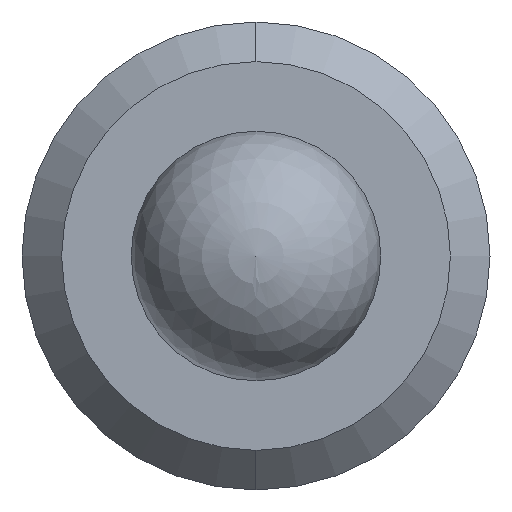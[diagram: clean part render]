
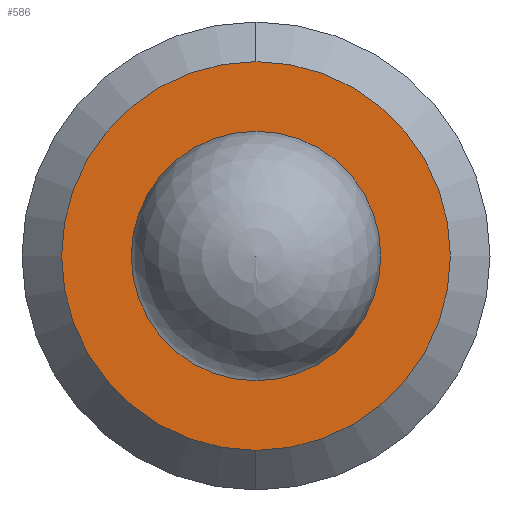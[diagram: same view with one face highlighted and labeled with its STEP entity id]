
A CAD part, left-side view. The second image highlights one B-rep face of the part: STEP entity #586.
In plain terms, the highlighted planar face has unit normal (-1, 0, 0).
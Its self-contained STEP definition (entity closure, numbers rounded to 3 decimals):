
#11 = FACE_BOUND ( 'NONE', #18, .T. ) ;
#18 = EDGE_LOOP ( 'NONE', ( #176, #44 ) ) ;
#31 = FACE_OUTER_BOUND ( 'NONE', #126, .T. ) ;
#44 = ORIENTED_EDGE ( 'NONE', *, *, #58, .F. ) ;
#58 = EDGE_CURVE ( 'NONE', #155, #599, #456, .T. ) ;
#64 = DIRECTION ( 'NONE',  ( 0., 0., -1. ) ) ;
#66 = DIRECTION ( 'NONE',  ( -1., 0., 0. ) ) ;
#70 = CARTESIAN_POINT ( 'NONE',  ( 0., 0., 0. ) ) ;
#71 = DIRECTION ( 'NONE',  ( 0., 0., 1. ) ) ;
#88 = AXIS2_PLACEMENT_3D ( 'NONE', #89, #548, #71 ) ;
#89 = CARTESIAN_POINT ( 'NONE',  ( 0., 0., 0. ) ) ;
#111 = CIRCLE ( 'NONE', #611, 1.246 ) ;
#126 = EDGE_LOOP ( 'NONE', ( #188, #187 ) ) ;
#155 = VERTEX_POINT ( 'NONE', #382 ) ;
#156 = AXIS2_PLACEMENT_3D ( 'NONE', #70, #66, #64 ) ;
#176 = ORIENTED_EDGE ( 'NONE', *, *, #320, .F. ) ;
#177 = VERTEX_POINT ( 'NONE', #274 ) ;
#187 = ORIENTED_EDGE ( 'NONE', *, *, #439, .T. ) ;
#188 = ORIENTED_EDGE ( 'NONE', *, *, #213, .T. ) ;
#213 = EDGE_CURVE ( 'NONE', #177, #484, #438, .T. ) ;
#274 = CARTESIAN_POINT ( 'NONE',  ( 0., 0., -1.246 ) ) ;
#277 = AXIS2_PLACEMENT_3D ( 'NONE', #587, #584, #517 ) ;
#320 = EDGE_CURVE ( 'NONE', #599, #155, #386, .T. ) ;
#350 = CARTESIAN_POINT ( 'NONE',  ( 0., 0., 0.8 ) ) ;
#366 = DIRECTION ( 'NONE',  ( 0., 0., -1. ) ) ;
#375 = DIRECTION ( 'NONE',  ( 1., 0., 0. ) ) ;
#382 = CARTESIAN_POINT ( 'NONE',  ( 0., 0., -0.8 ) ) ;
#386 = CIRCLE ( 'NONE', #88, 0.8 ) ;
#388 = AXIS2_PLACEMENT_3D ( 'NONE', #402, #375, #366 ) ;
#393 = PLANE ( 'NONE',  #388 ) ;
#402 = CARTESIAN_POINT ( 'NONE',  ( 0., 0., 0. ) ) ;
#438 = CIRCLE ( 'NONE', #156, 1.246 ) ;
#439 = EDGE_CURVE ( 'NONE', #484, #177, #111, .T. ) ;
#456 = CIRCLE ( 'NONE', #277, 0.8 ) ;
#484 = VERTEX_POINT ( 'NONE', #501 ) ;
#501 = CARTESIAN_POINT ( 'NONE',  ( 0., 0., 1.246 ) ) ;
#517 = DIRECTION ( 'NONE',  ( 0., 0., 1. ) ) ;
#537 = DIRECTION ( 'NONE',  ( 0., 0., -1. ) ) ;
#540 = DIRECTION ( 'NONE',  ( -1., 0., 0. ) ) ;
#542 = CARTESIAN_POINT ( 'NONE',  ( 0., 0., 0. ) ) ;
#548 = DIRECTION ( 'NONE',  ( -1., 0., 0. ) ) ;
#584 = DIRECTION ( 'NONE',  ( -1., 0., 0. ) ) ;
#586 = ADVANCED_FACE ( 'NONE', ( #11, #31 ), #393, .F. ) ;
#587 = CARTESIAN_POINT ( 'NONE',  ( 0., 0., 0. ) ) ;
#599 = VERTEX_POINT ( 'NONE', #350 ) ;
#611 = AXIS2_PLACEMENT_3D ( 'NONE', #542, #540, #537 ) ;
